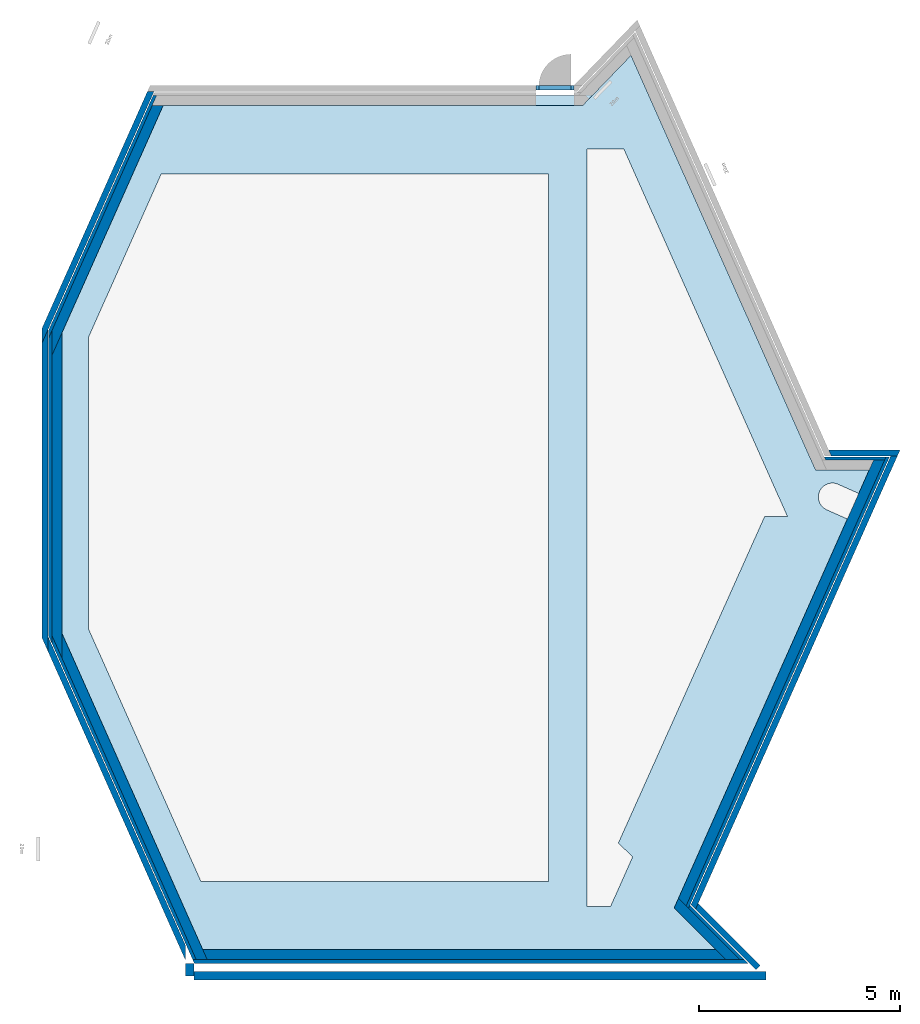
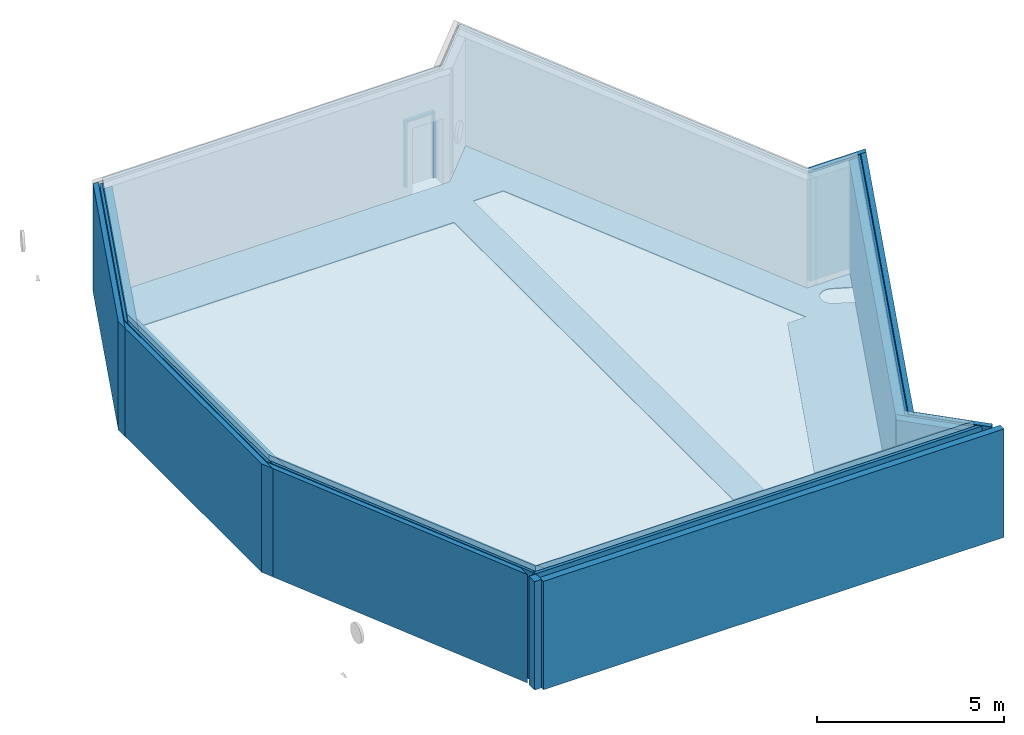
# One storey, part 1 of 4: 21 walls, 3 members, 2 slabs, 2 openings, 1 element without a shape of its own.
"""IFC2X3 building model written with IfcOpenShell, lengths in millimetres."""

from ifc_helpers import new_model, entity, si_unit, converted_unit, derived_unit, direction, frame, frame_2d, origin, origin_2d_with_axis, place, context, subcontext, project, spatial, polyline, circle_curve, parameter, trimmed, segment, composite_curve, rectangle, outline, extrude, clip, halfspace, source, transform, mapped, material, layer, layer_set, layer_usage, type_object, type_shapes, element, aggregate, save


model = new_model("IFC2X3")

# Units and contexts
model_context = context("Model", 3, precision=0.01, world=origin(), true_north=direction((6.123031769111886e-17, 1.0)))
body_context = subcontext(model_context, "Body", "Model", "MODEL_VIEW")
ifc_project = project(units=[si_unit("LENGTHUNIT", "METRE", prefix="MILLI"), si_unit("AREAUNIT", "SQUARE_METRE"), si_unit("VOLUMEUNIT", "CUBIC_METRE"), converted_unit("PLANEANGLEUNIT", "DEGREE", entity("IfcRatioMeasure", 0.017453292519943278), si_unit("PLANEANGLEUNIT", "RADIAN"), dimensions=[0, 0, 0, 0, 0, 0, 0]), si_unit("MASSUNIT", "GRAM", prefix="KILO"), derived_unit("MASSDENSITYUNIT", [(si_unit("MASSUNIT", "GRAM", prefix="KILO"), 1), (si_unit("LENGTHUNIT", "METRE"), -3)]), derived_unit("MOMENTOFINERTIAUNIT", [(si_unit("LENGTHUNIT", "METRE"), 4)]), si_unit("TIMEUNIT", "SECOND"), si_unit("FREQUENCYUNIT", "HERTZ"), si_unit("THERMODYNAMICTEMPERATUREUNIT", "DEGREE_CELSIUS"), derived_unit("THERMALTRANSMITTANCEUNIT", [(si_unit("MASSUNIT", "GRAM", prefix="KILO"), 1), (si_unit("THERMODYNAMICTEMPERATUREUNIT", "KELVIN"), -1), (si_unit("TIMEUNIT", "SECOND"), -3)]), derived_unit("VOLUMETRICFLOWRATEUNIT", [(si_unit("LENGTHUNIT", "METRE"), 3), (si_unit("TIMEUNIT", "SECOND"), -1)]), derived_unit("MASSFLOWRATEUNIT", [(si_unit("MASSUNIT", "GRAM", prefix="KILO"), 1), (si_unit("TIMEUNIT", "SECOND"), -1)]), derived_unit("ROTATIONALFREQUENCYUNIT", [(si_unit("TIMEUNIT", "SECOND"), -1)]), si_unit("ELECTRICCURRENTUNIT", "AMPERE"), si_unit("ELECTRICVOLTAGEUNIT", "VOLT"), si_unit("POWERUNIT", "WATT"), si_unit("FORCEUNIT", "NEWTON", prefix="KILO"), si_unit("ILLUMINANCEUNIT", "LUX"), si_unit("LUMINOUSFLUXUNIT", "LUMEN"), si_unit("LUMINOUSINTENSITYUNIT", "CANDELA"), derived_unit("USERDEFINED", [(si_unit("MASSUNIT", "GRAM", prefix="KILO"), -1), (si_unit("LENGTHUNIT", "METRE"), -2), (si_unit("TIMEUNIT", "SECOND"), 3), (si_unit("LUMINOUSFLUXUNIT", "LUMEN"), 1)]), derived_unit("SOUNDPOWERUNIT", [(si_unit("MASSUNIT", "GRAM", prefix="KILO"), 1), (si_unit("LENGTHUNIT", "METRE"), 2), (si_unit("TIMEUNIT", "SECOND"), -3)]), derived_unit("SOUNDPRESSUREUNIT", [(si_unit("MASSUNIT", "GRAM", prefix="KILO"), 1), (si_unit("LENGTHUNIT", "METRE"), -1), (si_unit("TIMEUNIT", "SECOND"), -2)]), derived_unit("LINEARVELOCITYUNIT", [(si_unit("LENGTHUNIT", "METRE"), 1), (si_unit("TIMEUNIT", "SECOND"), -1)]), si_unit("PRESSUREUNIT", "PASCAL"), derived_unit("USERDEFINED", [(si_unit("LENGTHUNIT", "METRE"), -2), (si_unit("MASSUNIT", "GRAM", prefix="KILO"), 1), (si_unit("TIMEUNIT", "SECOND"), -2)]), derived_unit("LINEARFORCEUNIT", [(si_unit("MASSUNIT", "GRAM", prefix="KILO"), 1), (si_unit("LENGTHUNIT", "METRE"), 1), (si_unit("TIMEUNIT", "SECOND"), -2), (si_unit("LENGTHUNIT", "METRE"), -1)]), derived_unit("PLANARFORCEUNIT", [(si_unit("MASSUNIT", "GRAM", prefix="KILO"), 1), (si_unit("LENGTHUNIT", "METRE"), 1), (si_unit("TIMEUNIT", "SECOND"), -2), (si_unit("LENGTHUNIT", "METRE"), -2)])], contexts=[model_context])

# Site, building, storey
site_placement = place(None, frame((-10000.0, -10000.0, 0.0)))
site = spatial("IfcSite", under=ifc_project, at=site_placement, Name="Default", CompositionType="ELEMENT")
building_placement = place(site_placement, origin())
building = spatial("IfcBuilding", under=site, at=building_placement, CompositionType="ELEMENT")
storey_placement = place(building_placement, frame((0.0, 0.0, 12600.0)))
storey = spatial("IfcBuildingStorey", under=building, at=storey_placement, Name="03 3e verdieping", CompositionType="ELEMENT", Elevation=12600.0)

# Curtain wall, members
curtain_wall_type = type_object("IfcCurtainWallType", Name="Curtain Wall:NLRS_32_CWA_houten binnenkozijnen ts90_ags", PredefinedType="NOTDEFINED")
curtain_wall_placement = place(storey_placement, frame((0.0, 0.0, -12600.0)))
curtain_wall = element("IfcCurtainWall", 1, at=curtain_wall_placement, inside=storey, type_object=curtain_wall_type, Name="Curtain Wall:NLRS_32_CWA_houten binnenkozijnen ts90_ags", ObjectType="Curtain Wall:NLRS_32_CWA_houten binnenkozijnen ts90_ags")
ifc_material_1 = material(Name="<Unnamed>")
member_type_1 = type_object("IfcMemberType", Name="Rectangular Mullion:NLRS_32_CWM_hout 114x67_ags", PredefinedType="MULLION", material=ifc_material_1)
shared_shape_1 = source(origin(), body_context, "Body", "SweptSolid", [
    extrude(rectangle(XDim=114.0, YDim=67.0, at=origin_2d_with_axis()), frame((-33.5, 0.0, -2170.0), z_axis=(0.0, 0.0, 1.0), x_axis=(0.0, -1.0, 0.0)), (0.0, 0.0, 1.0), 2170.0),
])
type_shapes(member_type_1, [shared_shape_1])
member_1_placement = place(curtain_wall_placement, frame((38531.263676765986, 49595.0, 12600.0), z_axis=(0.0, 0.0, -1.0), x_axis=(1.0, 0.0, 0.0)))
member_1 = element("IfcMember", 2, at=member_1_placement, type_object=member_type_1, material=ifc_material_1, Name="Rectangular Mullion:NLRS_32_CWM_hout 114x67_ags", ObjectType="Rectangular Mullion:NLRS_32_CWM_hout 114x67_ags", context=body_context, shape_type="MappedRepresentation", body=[
    mapped(shared_shape_1, transform((0.0, 0.0, 0.0), scale=1.0)),
])
member_type_2 = type_object("IfcMemberType", Name="Rectangular Mullion:NLRS_32_CWM_hout 114x67_ags", PredefinedType="MULLION", material=ifc_material_1)
shared_shape_2 = source(origin(), body_context, "Body", "SweptSolid", [
    extrude(rectangle(XDim=114.0, YDim=67.0, at=origin_2d_with_axis()), frame((-33.5, 0.0, -2170.0), z_axis=(0.0, 0.0, 1.0), x_axis=(0.0, -1.0, 0.0)), (0.0, 0.0, 1.0), 2170.0000000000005),
])
type_shapes(member_type_2, [shared_shape_2])
member_2_placement = place(curtain_wall_placement, frame((37591.26367676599, 49595.0, 14770.0), z_axis=(0.0, 0.0, 1.0), x_axis=(-1.0, 0.0, 0.0)))
member_2 = element("IfcMember", 3, at=member_2_placement, type_object=member_type_2, material=ifc_material_1, Name="Rectangular Mullion:NLRS_32_CWM_hout 114x67_ags", ObjectType="Rectangular Mullion:NLRS_32_CWM_hout 114x67_ags", context=body_context, shape_type="MappedRepresentation", body=[
    mapped(shared_shape_2, transform((0.0, 0.0, 0.0), scale=1.0)),
])
member_type_3 = type_object("IfcMemberType", Name="Rectangular Mullion:NLRS_32_CWM_hout 114x67_ags", PredefinedType="MULLION", material=ifc_material_1)
shared_shape_3 = source(origin(), body_context, "Body", "SweptSolid", [
    extrude(rectangle(XDim=114.0, YDim=67.0, at=origin_2d_with_axis()), frame((-33.5, 0.0, -806.0), z_axis=(0.0, 0.0, 1.0), x_axis=(0.0, -1.0, 0.0)), (0.0, 0.0, 1.0), 805.9999999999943),
])
type_shapes(member_type_3, [shared_shape_3])
member_3_placement = place(curtain_wall_placement, frame((38464.263676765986, 49595.0, 14770.0), z_axis=(1.0, 0.0, 0.0), x_axis=(0.0, 0.0, 1.0)))
member_3 = element("IfcMember", 4, at=member_3_placement, type_object=member_type_3, material=ifc_material_1, Name="Rectangular Mullion:NLRS_32_CWM_hout 114x67_ags", ObjectType="Rectangular Mullion:NLRS_32_CWM_hout 114x67_ags", context=body_context, shape_type="MappedRepresentation", body=[
    mapped(shared_shape_3, transform((0.0, 0.0, 0.0), scale=1.0)),
])
aggregate(curtain_wall, [member_3, member_1, member_2])

# Slab
ifc_material_2 = material(Name="NLRS_beton ihwg")
ifc_layer_1 = layer(ifc_material_2, 175.0)
ifc_layer_set_1 = layer_set([ifc_layer_1], Name="Floor:NLRS_23_FL_staalplaat - betonvloer 175mm_ags")
ifc_layer_usage_1 = layer_usage(ifc_layer_set_1, "AXIS3", "POSITIVE", 0.0)
slab_type_1 = type_object("IfcSlabType", Name="Floor:NLRS_23_FL_staalplaat - betonvloer 175mm_ags", PredefinedType="FLOOR", material=ifc_layer_set_1)
slab_1_placement = place(storey_placement, origin())
element("IfcSlab", 5, at=slab_1_placement, inside=storey, type_object=slab_type_1, material=ifc_layer_usage_1, Name="Floor:NLRS_23_FL_staalplaat - betonvloer 175mm_ags", ObjectType="Floor:NLRS_23_FL_staalplaat - betonvloer 175mm_ags", PredefinedType="FLOOR", context=body_context, shape_type="SweptSolid", body=[
    extrude(outline(polyline([(-3521.0896524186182, -10672.413085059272), (4065.2411057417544, -10672.413085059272), (9927.667995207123, -8062.292468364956), (9927.667995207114, 2442.7285701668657), (11371.295929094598, 3835.7148694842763), (843.6470231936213, 8522.926151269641), (843.6470231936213, 10076.126770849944), (-10259.41340902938, 5132.725771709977), (-11599.332005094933, 6472.644367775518), (-11599.332005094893, -7075.747862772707), (-3521.0896524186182, -10672.413085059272)])), frame((36197.413084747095, 39474.332004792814, 3725.0), z_axis=(0.0, 0.0, -1.0), x_axis=(0.0, 1.0, 0.0)), (0.0, 0.0, 1.0), 174.9999999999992),
])

# Slab, openings
ifc_material_3 = material(Name="21_APX_roostervloer")
ifc_layer_2 = layer(ifc_material_3, 30.0)
ifc_layer_set_2 = layer_set([ifc_layer_2], Name="Floor:NLRS_43_FL_roostervloer 30mm_ags")
ifc_layer_usage_2 = layer_usage(ifc_layer_set_2, "AXIS3", "POSITIVE", 0.0)
slab_type_2 = type_object("IfcSlabType", Name="Floor:NLRS_43_FL_roostervloer 30mm_ags", PredefinedType="FLOOR", material=ifc_layer_set_2)
slab_2_placement = place(storey_placement, frame((25775.0, 28125.0, 0.0)))
slab_2 = element("IfcSlab", 6, at=slab_2_placement, inside=storey, type_object=slab_type_2, material=ifc_layer_usage_2, Name="Floor:NLRS_43_FL_roostervloer 30mm_ags", ObjectType="Floor:NLRS_43_FL_roostervloer 30mm_ags", PredefinedType="FLOOR", context=body_context, shape_type="SweptSolid", body=[
    extrude(outline(composite_curve([segment(polyline([(10056.786807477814, 4221.313443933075), (7534.314292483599, 9886.879473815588)]), True, "CONTINUOUS"), segment(polyline([(7534.314292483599, 9886.879473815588), (-2914.476869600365, 9886.879473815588)]), True, "CONTINUOUS"), segment(polyline([(-2914.476869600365, 9886.879473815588), (-4123.754949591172, 11140.120526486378)]), True, "CONTINUOUS"), segment(polyline([(-4123.754949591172, 11140.120526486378), (-8726.20053055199, 802.8585018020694)]), True, "CONTINUOUS"), segment(polyline([(-8726.20053055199, 802.8585018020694), (-10056.786807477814, 802.8585018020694)]), True, "CONTINUOUS"), segment(polyline([(-10056.786807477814, 802.8585018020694), (-9798.267911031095, 222.21555363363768)]), True, "CONTINUOUS"), segment(polyline([(-9798.267911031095, 222.21555363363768), (-9282.815777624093, 451.70962932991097)]), True, "CONTINUOUS"), segment(trimmed(circle_curve(frame_2d((-9141.731546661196, 134.82925836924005), x_axis=(-1.0, 0.0)), 346.8687500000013), [parameter(114.0000000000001)], [parameter(294.0)], True, "PARAMETER"), False, "CONTINUOUS"), segment(polyline([(-9000.647315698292, -182.05111259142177), (-9516.099449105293, -411.5451882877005)]), True, "CONTINUOUS"), segment(polyline([(-9516.099449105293, -411.54518828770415), (-5200.080097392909, -10105.48336911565)]), True, "CONTINUOUS"), segment(polyline([(-5200.080097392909, -10105.48336911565), (-6234.717254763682, -11140.120526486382)]), True, "CONTINUOUS"), segment(polyline([(-6234.717254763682, -11140.120526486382), (6547.769686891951, -11140.120526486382)]), True, "CONTINUOUS"), segment(polyline([(6547.769686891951, -11140.120526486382), (10056.786807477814, -3258.7390333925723)]), True, "CONTINUOUS"), segment(polyline([(10056.786807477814, -3258.7390333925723), (10056.786807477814, 4221.313443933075)]), True, "CONTINUOUS")], self_intersect=False)), frame((10056.786807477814, 11140.120526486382, 30.0), z_axis=(0.0, 0.0, -1.0), x_axis=(-1.0, 0.0, 0.0)), (0.0, 0.0, 1.0), 29.999999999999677),
])
opening_1_placement = place(slab_2_placement, frame((5250.167479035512, 10882.802577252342, 30.0)))
element("IfcOpeningElement", 7, at=opening_1_placement, cuts=slab_2, Name="Floor:NLRS_43_FL_roostervloer 30mm_ags:2", ObjectType="Opening", context=body_context, shape_type="SweptSolid", body=[
    extrude(outline(polyline([(2113.991636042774, -5967.890150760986), (6586.248956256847, -5967.890150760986), (10509.211298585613, 2843.227532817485), (-5593.854483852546, 10012.774340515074), (-9115.552985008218, 2102.9100002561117), (-4500.044422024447, -3023.1315720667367), (2113.991636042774, -5967.890150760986)])), frame((0.0, 0.0, 0.0), z_axis=(0.0, 0.0, -1.0), x_axis=(0.4067366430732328, 0.913545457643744, 0.0)), (0.0, 0.0, 1.0), 29.999999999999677),
])
opening_2_placement = place(slab_2_placement, frame((14688.937400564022, 8571.050406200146, 30.0)))
element("IfcOpeningElement", 8, at=opening_2_placement, cuts=slab_2, Name="Floor:NLRS_43_FL_roostervloer 30mm_ags:3", ObjectType="Opening", context=body_context, shape_type="SweptSolid", body=[
    extrude(outline(polyline([(-10665.389531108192, -3999.2252037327), (-644.9997126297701, -3999.2252037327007), (-877.215399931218, -3477.6602305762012), (5071.606745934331, 3158.87902268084), (5531.877919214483, 2975.1733788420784), (6433.697339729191, 3976.7453133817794), (6192.188933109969, 4519.182075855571), (-11041.766294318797, -3153.869152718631), (-10665.389531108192, -3999.2252037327)])), frame((0.0, 0.0, 0.0), z_axis=(0.0, 0.0, -1.0), x_axis=(0.40673664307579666, -0.9135454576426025, 0.0)), (0.0, 0.0, 1.0), 29.999999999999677),
])

# Walls
ifc_layer_3 = layer(ifc_material_2, 250.00000000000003)
ifc_layer_set_3 = layer_set([ifc_layer_3], Name="Basic Wall:NLRS_21_WA_beton 250mm_ags")
ifc_layer_usage_3 = layer_usage(ifc_layer_set_3, "AXIS2", "NEGATIVE", 125.00000000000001)
wall_type_1 = type_object("IfcWallType", Name="Basic Wall:NLRS_21_WA_beton 250mm_ags", PredefinedType="STANDARD", material=ifc_layer_set_3)
wall_1_placement = place(storey_placement, frame((28183.279332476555, 49202.842080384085, 0.0), z_axis=(0.0, 0.0, 1.0), x_axis=(-0.4067366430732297, -0.9135454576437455, 0.0)))
element("IfcWallStandardCase", 9, at=wall_1_placement, inside=storey, type_object=wall_type_1, material=ifc_layer_usage_3, Name="Basic Wall:NLRS_21_WA_beton 250mm_ags", ObjectType="Basic Wall:NLRS_21_WA_beton 250mm_ags", context=body_context, shape_type="Clipping", body=[
    clip(extrude(outline(polyline([(111.30717132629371, -125.0), (6254.8732549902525, -125.0), (6816.382448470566, 125.0), (6201.734114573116, 125.0), (0.0, 125.0), (111.30717132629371, -125.0)])), origin(), (0.0, 0.0, 1.0), 3549.9999999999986), halfspace(frame((0.0, 0.0, -3600.0)), True)),
])
ifc_layer_usage_4 = layer_usage(ifc_layer_set_3, "AXIS2", "NEGATIVE", 125.00000000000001)
wall_2_placement = place(storey_placement, frame((25650.0, 43486.43397011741, 0.0), z_axis=(0.0, 0.0, 1.0), x_axis=(0.0, -1.0, 0.0)))
element("IfcWallStandardCase", 10, at=wall_2_placement, inside=storey, type_object=wall_type_1, material=ifc_layer_usage_4, Name="Basic Wall:NLRS_21_WA_beton 250mm_ags", ObjectType="Basic Wall:NLRS_21_WA_beton 250mm_ags", context=body_context, shape_type="Clipping", body=[
    clip(extrude(outline(polyline([(7533.19161774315, -125.0), (8094.700811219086, 125.0), (7480.052477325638, 125.0), (0.0, 125.0), (561.5091934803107, -125.0), (7533.19161774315, -125.0)])), origin(), (0.0, 0.0, 1.0), 3549.9999999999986), halfspace(frame((0.0, 0.0, -3600.0)), True)),
])
ifc_layer_usage_5 = layer_usage(ifc_layer_set_3, "AXIS2", "NEGATIVE", 125.00000000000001)
wall_3_placement = place(storey_placement, frame((25660.80681748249, 35955.53941240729, 0.0), z_axis=(0.0, 0.0, 1.0), x_axis=(0.40673664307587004, -0.9135454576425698, 0.0)))
element("IfcWallStandardCase", 11, at=wall_3_placement, inside=storey, type_object=wall_type_1, material=ifc_layer_usage_5, Name="Basic Wall:NLRS_21_WA_beton 250mm_ags", ObjectType="Basic Wall:NLRS_21_WA_beton 250mm_ags", context=body_context, shape_type="Clipping", body=[
    clip(extrude(outline(polyline([(561.5091934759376, -125.0), (8789.598005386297, -125.0), (8900.905176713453, 125.0), (8627.246107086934, 125.0), (0.0, 125.0), (561.5091934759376, -125.0)])), origin(), (0.0, 0.0, 1.0), 3549.9999999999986), halfspace(frame((0.0, 0.0, -3600.0)), True)),
])
ifc_layer_usage_6 = layer_usage(ifc_layer_set_3, "AXIS2", "NEGATIVE", 125.00000000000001)
wall_4_placement = place(storey_placement, frame((29284.01712027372, 28000.0, 0.0)))
element("IfcWallStandardCase", 12, at=wall_4_placement, inside=storey, type_object=wall_type_1, material=ifc_layer_usage_6, Name="Basic Wall:NLRS_21_WA_beton 250mm_ags", ObjectType="Basic Wall:NLRS_21_WA_beton 250mm_ags", context=body_context, shape_type="Clipping", body=[
    clip(extrude(outline(polyline([(13032.486941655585, -125.0), (12782.486941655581, 125.0), (0.0, 125.0), (111.30717132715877, -125.0), (13032.486941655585, -125.0)])), origin(), (0.0, 0.0, 1.0), 3549.9999999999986), halfspace(frame((0.0, 0.0, -3600.0)), True)),
])
ifc_layer_usage_7 = layer_usage(ifc_layer_set_3, "AXIS2", "NEGATIVE", 125.00000000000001)
wall_5_placement = place(storey_placement, frame((46159.346673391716, 40368.82110837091, 0.0), z_axis=(0.0, 0.0, 1.0), x_axis=(-0.40673664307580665, -0.9135454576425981, 0.0)))
element("IfcWallStandardCase", 13, at=wall_5_placement, inside=storey, type_object=wall_type_1, material=ifc_layer_usage_7, Name="Basic Wall:NLRS_21_WA_beton 250mm_ags", ObjectType="Basic Wall:NLRS_21_WA_beton 250mm_ags", context=body_context, shape_type="Clipping", body=[
    clip(extrude(outline(polyline([(12057.846742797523, -125.0), (12153.812751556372, 125.0), (0.0, 125.0), (111.30717132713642, -125.0), (12057.846742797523, -125.0)])), origin(), (0.0, 0.0, 1.0), 3549.9999999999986), halfspace(frame((0.0, 0.0, -3600.0)), True)),
])
ifc_layer_usage_8 = layer_usage(ifc_layer_set_3, "AXIS2", "NEGATIVE", 125.00000000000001)
wall_6_placement = place(storey_placement, frame((41052.39703665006, 29315.883720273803, 0.0), z_axis=(0.0, 0.0, 1.0), x_axis=(0.7071067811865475, -0.7071067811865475, 0.0)))
element("IfcWallStandardCase", 14, at=wall_6_placement, inside=storey, type_object=wall_type_1, material=ifc_layer_usage_8, Name="Basic Wall:NLRS_21_WA_beton 250mm_ags", ObjectType="Basic Wall:NLRS_21_WA_beton 250mm_ags", context=body_context, shape_type="Clipping", body=[
    clip(extrude(outline(polyline([(95.96600875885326, -125.0), (1559.1639088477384, -125.0), (1912.7172994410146, -125.0), (2162.7172994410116, 125.0), (267.78624840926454, 125.0), (0.0, 125.0), (95.96600875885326, -125.0)])), origin(), (0.0, 0.0, 1.0), 3549.9999999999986), halfspace(frame((0.0, 0.0, -3600.0)), True)),
])
ifc_material_4 = material(Name="NLRS_kalkzandsteen")
ifc_layer_4 = layer(ifc_material_4, 150.0)
ifc_layer_set_4 = layer_set([ifc_layer_4], Name="Basic Wall:NLRS_22_WA_kalkzandsteen 150mm_ags")
ifc_layer_usage_9 = layer_usage(ifc_layer_set_4, "AXIS2", "NEGATIVE", 75.0)
wall_type_2 = type_object("IfcWallType", Name="Basic Wall:NLRS_22_WA_kalkzandsteen 150mm_ags", PredefinedType="STANDARD", material=ifc_layer_set_4)
wall_7_placement = place(storey_placement, frame((28001.66394773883, 49532.50524823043, 0.0), z_axis=(0.0, 0.0, 1.0), x_axis=(-0.40673664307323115, -0.9135454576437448, 0.0)))
element("IfcWallStandardCase", 15, at=wall_7_placement, inside=storey, type_object=wall_type_2, material=ifc_layer_usage_9, Name="Basic Wall:NLRS_22_WA_kalkzandsteen 150mm_ags", ObjectType="Basic Wall:NLRS_22_WA_kalkzandsteen 150mm_ags", context=body_context, shape_type="Clipping", body=[
    clip(extrude(outline(polyline([(66.78430279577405, -75.0), (6535.3050530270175, -75.0), (6872.210569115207, 75.0), (6503.421568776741, 75.0), (0.0, 75.0), (66.78430279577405, -75.0)])), origin(), (0.0, 0.0, 1.0), 3549.9999999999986), halfspace(frame((0.0, 0.0, -3600.0)), True)),
])
ifc_layer_usage_10 = layer_usage(ifc_layer_set_4, "AXIS2", "NEGATIVE", 75.0)
wall_8_placement = place(storey_placement, frame((25350.0, 43560.82876670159, 0.0), z_axis=(0.0, 0.0, 1.0), x_axis=(0.0, -1.0, 0.0)))
element("IfcWallStandardCase", 16, at=wall_8_placement, inside=storey, type_object=wall_type_2, material=ifc_layer_usage_10, Name="Basic Wall:NLRS_22_WA_kalkzandsteen 150mm_ags", ObjectType="Basic Wall:NLRS_22_WA_kalkzandsteen 150mm_ags", context=body_context, shape_type="Clipping", body=[
    clip(extrude(outline(polyline([(7660.725554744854, -75.0), (7997.631070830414, 75.0), (7628.84207049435, 75.0), (0.0, 75.0), (336.9055160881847, -75.0), (7660.725554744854, -75.0)])), origin(), (0.0, 0.0, 1.0), 3549.9999999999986), halfspace(frame((0.0, 0.0, -3600.0)), True)),
])
ifc_layer_usage_11 = layer_usage(ifc_layer_set_4, "AXIS2", "NEGATIVE", 75.0)
wall_9_placement = place(storey_placement, frame((25356.48409036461, 35901.48144797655, 0.0), z_axis=(0.0, 0.0, 1.0), x_axis=(0.4067366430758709, -0.9135454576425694, 0.0)))
element("IfcWallStandardCase", 17, at=wall_9_placement, inside=storey, type_object=wall_type_2, material=ifc_layer_usage_11, Name="Basic Wall:NLRS_22_WA_kalkzandsteen 150mm_ags", ObjectType="Basic Wall:NLRS_22_WA_kalkzandsteen 150mm_ags", context=body_context, shape_type="Clipping", body=[
    clip(extrude(outline(polyline([(336.90551608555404, -75.0), (8777.458966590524, -75.0), (8440.55345050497, 75.0), (0.0, 75.0), (336.90551608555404, -75.0)])), origin(), (0.0, 0.0, 1.0), 3549.9999999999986), halfspace(frame((0.0, 0.0, -3600.0)), True)),
])
ifc_layer_usage_12 = layer_usage(ifc_layer_set_4, "AXIS2", "NEGATIVE", 75.0)
wall_10_placement = place(storey_placement, frame((44882.691134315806, 40492.97902798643, 0.0)))
element("IfcWallStandardCase", 18, at=wall_10_placement, inside=storey, type_object=wall_type_2, material=ifc_layer_usage_12, Name="Basic Wall:NLRS_22_WA_kalkzandsteen 150mm_ags", ObjectType="Basic Wall:NLRS_22_WA_kalkzandsteen 150mm_ags", context=body_context, shape_type="Clipping", body=[
    clip(extrude(outline(polyline([(1709.0306594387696, -75.0), (1775.8149622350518, 75.0), (0.0, 75.0), (66.78430279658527, -75.0), (1544.835217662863, -75.0), (1709.0306594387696, -75.0)])), origin(), (0.0, 0.0, 1.0), 3549.9999999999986), halfspace(frame((0.0, 0.0, -3600.0)), True)),
])
ifc_layer_usage_13 = layer_usage(ifc_layer_set_4, "AXIS2", "NEGATIVE", 75.0)
wall_11_placement = place(storey_placement, frame((46523.20588443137, 40448.48427621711, 0.0), z_axis=(0.0, 0.0, 1.0), x_axis=(-0.40673664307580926, -0.9135454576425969, 0.0)))
element("IfcWallStandardCase", 19, at=wall_11_placement, inside=storey, type_object=wall_type_2, material=ifc_layer_usage_13, Name="Basic Wall:NLRS_22_WA_kalkzandsteen 150mm_ags", ObjectType="Basic Wall:NLRS_22_WA_kalkzandsteen 150mm_ags", context=body_context, shape_type="Clipping", body=[
    clip(extrude(outline(polyline([(12305.855454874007, -75.0), (12363.435060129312, 75.0), (12202.76331108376, 75.0), (0.0, 75.0), (66.7843027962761, -75.0), (12305.855454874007, -75.0)])), origin(), (0.0, 0.0, 1.0), 3549.9999999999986), halfspace(frame((0.0, 0.0, -3600.0)), True)),
])
ifc_layer_usage_14 = layer_usage(ifc_layer_set_4, "AXIS2", "NEGATIVE", 75.0)
wall_12_placement = place(storey_placement, frame((41575.37779976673, 29217.16702586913, 0.0), z_axis=(0.0, 0.0, 1.0), x_axis=(0.7071067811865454, -0.7071067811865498, 0.0)))
element("IfcWallStandardCase", 20, at=wall_12_placement, inside=storey, type_object=wall_type_2, material=ifc_layer_usage_14, Name="Basic Wall:NLRS_22_WA_kalkzandsteen 150mm_ags", ObjectType="Basic Wall:NLRS_22_WA_kalkzandsteen 150mm_ags", context=body_context, shape_type="Clipping", body=[
    clip(extrude(outline(polyline([(2188.453928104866, -75.0), (2188.4539281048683, 75.0), (0.0, 75.0), (57.57960525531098, -75.0), (2188.453928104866, -75.0)])), origin(), (0.0, 0.0, 1.0), 3549.9999999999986), halfspace(frame((0.0, 0.0, -3600.0)), True)),
])
ifc_material_5 = material(Name="NLRS_metselwerk schoonwerk")
ifc_layer_5 = layer(ifc_material_5, 210.0)
ifc_layer_set_5 = layer_set([ifc_layer_5], Name="Basic Wall:NLRS_21_WA_metselwerk 210mm_ags")
ifc_layer_usage_15 = layer_usage(ifc_layer_set_5, "AXIS2", "NEGATIVE", 105.0)
wall_type_3 = type_object("IfcWallType", Name="Basic Wall:NLRS_21_WA_metselwerk 210mm_ags", PredefinedType="STANDARD", material=ifc_layer_set_5)
wall_13_placement = place(storey_placement, frame((29068.08237584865, 27470.0, 0.0)))
element("IfcWallStandardCase", 21, at=wall_13_placement, inside=storey, type_object=wall_type_3, material=ifc_layer_usage_15, Name="Basic Wall:NLRS_21_WA_metselwerk 210mm_ags", ObjectType="Basic Wall:NLRS_21_WA_metselwerk 210mm_ags", context=body_context, shape_type="Clipping", body=[
    clip(extrude(rectangle(XDim=14254.46245008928, YDim=209.99999999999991, at=frame_2d((7127.23122504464, 2.2311041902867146e-12), x_axis=(-1.0, 0.0))), origin(), (0.0, 0.0, 1.0), 3549.9999999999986), halfspace(frame((0.0, 0.0, -3600.0)), True)),
])
ifc_layer_usage_16 = layer_usage(ifc_layer_set_5, "AXIS2", "NEGATIVE", 105.0)
wall_14_placement = place(storey_placement, frame((28963.08237584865, 27770.014353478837, 0.0), z_axis=(0.0, 0.0, 1.0), x_axis=(0.0, -1.0, 0.0)))
element("IfcWallStandardCase", 22, at=wall_14_placement, inside=storey, type_object=wall_type_3, material=ifc_layer_usage_16, Name="Basic Wall:NLRS_21_WA_metselwerk 210mm_ags", ObjectType="Basic Wall:NLRS_21_WA_metselwerk 210mm_ags", context=body_context, shape_type="Clipping", body=[
    clip(extrude(rectangle(XDim=300.0143537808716, YDim=209.9999999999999, at=frame_2d((150.0071768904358, 2.1671553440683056e-12), x_axis=(-1.0, 0.0))), origin(), (0.0, 0.0, 1.0), 3549.9999999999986), halfspace(frame((0.0, 0.0, -3600.0)), True)),
])
ifc_material_6 = material(Name="NLRS_isolatie")
ifc_layer_6 = layer(ifc_material_6, 100.0)
ifc_layer_set_6 = layer_set([ifc_layer_6], Name="Basic Wall:NLRS_21_WA_isolatie 100mm_ags")
ifc_layer_usage_17 = layer_usage(ifc_layer_set_6, "AXIS2", "NEGATIVE", 50.0)
wall_type_4 = type_object("IfcWallType", Name="Basic Wall:NLRS_21_WA_isolatie 100mm_ags", PredefinedType="STANDARD", material=ifc_layer_set_6)
wall_15_placement = place(storey_placement, frame((29034.094319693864, 27825.0, 0.0)))
element("IfcWallStandardCase", 23, at=wall_15_placement, inside=storey, type_object=wall_type_4, material=ifc_layer_usage_17, Name="Basic Wall:NLRS_21_WA_isolatie 100mm_ags", ObjectType="Basic Wall:NLRS_21_WA_isolatie 100mm_ags", context=body_context, shape_type="Clipping", body=[
    clip(extrude(outline(polyline([(13849.100217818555, -50.0), (13749.10021781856, 50.0), (13635.963132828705, 50.0), (87.5709022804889, 50.0), (0.0, 50.0), (44.52286853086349, -50.0), (13849.100217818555, -50.0)])), origin(), (0.0, 0.0, 1.0), 3549.9999999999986), halfspace(frame((0.0, 0.0, -8400.0)), True)),
])
ifc_layer_7 = layer(ifc_material_6, 80.0)
ifc_layer_set_7 = layer_set([ifc_layer_7], Name="Basic Wall:NLRS_21_WA_isolatie 80mm_ags")
ifc_layer_usage_18 = layer_usage(ifc_layer_set_7, "AXIS2", "NEGATIVE", 40.0)
wall_type_5 = type_object("IfcWallType", Name="Basic Wall:NLRS_21_WA_isolatie 80mm_ags", PredefinedType="STANDARD", material=ifc_layer_set_7)
wall_16_placement = place(storey_placement, frame((25408.45818138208, 43376.159634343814, 0.0), z_axis=(0.0, 0.0, 1.0), x_axis=(0.4067366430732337, 0.9135454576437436, 0.0)))
element("IfcWallStandardCase", 24, at=wall_16_placement, inside=storey, type_object=wall_type_5, material=ifc_layer_usage_18, Name="Basic Wall:NLRS_21_WA_isolatie 80mm_ags", ObjectType="Basic Wall:NLRS_21_WA_isolatie 80mm_ags", context=body_context, shape_type="Clipping", body=[
    clip(extrude(outline(polyline([(0.0, -40.0), (196.68746684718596, -40.0), (6613.912620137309, -40.0), (6578.294325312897, 40.0), (179.68294191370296, 40.0), (0.0, -40.0)])), origin(), (0.0, 0.0, 1.0), 3549.9999999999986), halfspace(frame((0.0, 0.0, -8400.0)), True)),
])
ifc_layer_usage_19 = layer_usage(ifc_layer_set_7, "AXIS2", "NEGATIVE", 40.0)
wall_17_placement = place(storey_placement, frame((25485.0, 35756.55488552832, 0.0), z_axis=(0.0, 0.0, 1.0), x_axis=(0.0, 1.0, 0.0)))
element("IfcWallStandardCase", 25, at=wall_17_placement, inside=storey, type_object=wall_type_5, material=ifc_layer_usage_19, Name="Basic Wall:NLRS_21_WA_isolatie 80mm_ags", ObjectType="Basic Wall:NLRS_21_WA_isolatie 80mm_ags", context=body_context, shape_type="Clipping", body=[
    clip(extrude(outline(polyline([(0.0, -40.0), (196.687466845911, -40.0), (7783.018225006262, -40.0), (7603.335283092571, 40.0), (179.68294191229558, 40.0), (0.0, -40.0)])), origin(), (0.0, 0.0, 1.0), 3549.9999999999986), halfspace(frame((0.0, 0.0, -8400.0)), True)),
])
ifc_layer_usage_20 = layer_usage(ifc_layer_set_7, "AXIS2", "NEGATIVE", 40.0)
wall_18_placement = place(storey_placement, frame((29085.12340366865, 27858.73053397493, 0.0), z_axis=(0.0, 0.0, 1.0), x_axis=(-0.4067366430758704, 0.9135454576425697, 0.0)))
element("IfcWallStandardCase", 26, at=wall_18_placement, inside=storey, type_object=wall_type_5, material=ifc_layer_usage_20, Name="Basic Wall:NLRS_21_WA_isolatie 80mm_ags", ObjectType="Basic Wall:NLRS_21_WA_isolatie 80mm_ags", context=body_context, shape_type="Clipping", body=[
    clip(extrude(outline(polyline([(0.0, -40.0), (8842.737145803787, -40.0), (8663.054203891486, 40.0), (35.6182948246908, 40.0), (0.0, -40.0)])), origin(), (0.0, 0.0, 1.0), 3549.9999999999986), halfspace(frame((0.0, 0.0, -8400.0)), True)),
])
ifc_layer_usage_21 = layer_usage(ifc_layer_set_7, "AXIS2", "NEGATIVE", 40.0)
wall_19_placement = place(storey_placement, frame((41354.19014924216, 29170.59495039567, 0.0), z_axis=(0.0, 0.0, 1.0), x_axis=(0.4067366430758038, 0.9135454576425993, 0.0)))
element("IfcWallStandardCase", 27, at=wall_19_placement, inside=storey, type_object=wall_type_5, material=ifc_layer_usage_21, Name="Basic Wall:NLRS_21_WA_isolatie 80mm_ags", ObjectType="Basic Wall:NLRS_21_WA_isolatie 80mm_ags", context=body_context, shape_type="Clipping", body=[
    clip(extrude(outline(polyline([(12307.711071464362, -40.0), (12272.092776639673, 40.0), (12184.521874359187, 40.0), (30.709122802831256, 40.0), (0.0, -40.0), (85.69159949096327, -40.0), (12307.711071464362, -40.0)])), origin(), (0.0, 0.0, 1.0), 3549.9999999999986), halfspace(frame((0.0, 0.0, -8400.0)), True)),
])
ifc_layer_usage_22 = layer_usage(ifc_layer_set_7, "AXIS2", "NEGATIVE", 40.0)
wall_20_placement = place(storey_placement, frame((44772.29184347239, 40357.97902798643, 0.0)))
element("IfcWallStandardCase", 28, at=wall_20_placement, inside=storey, type_object=wall_type_5, material=ifc_layer_usage_22, Name="Basic Wall:NLRS_21_WA_isolatie 80mm_ags", ObjectType="Basic Wall:NLRS_21_WA_isolatie 80mm_ags", context=body_context, shape_type="Clipping", body=[
    clip(extrude(outline(polyline([(35.61829482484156, -40.0), (1501.2480121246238, -40.0), (1536.8663069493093, 40.0), (0.0, 40.0), (35.61829482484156, -40.0)])), origin(), (0.0, 0.0, 1.0), 3549.9999999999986), halfspace(frame((0.0, 0.0, -8400.0)), True)),
])
ifc_layer_usage_23 = layer_usage(ifc_layer_set_7, "AXIS2", "NEGATIVE", 40.0)
wall_21_placement = place(storey_placement, frame((41397.30160981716, 29204.324384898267, 0.0), z_axis=(0.0, 0.0, 1.0), x_axis=(0.7071067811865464, -0.7071067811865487, 0.0)))
element("IfcWallStandardCase", 29, at=wall_21_placement, inside=storey, type_object=wall_type_5, material=ifc_layer_usage_23, Name="Basic Wall:NLRS_21_WA_isolatie 80mm_ags", ObjectType="Basic Wall:NLRS_21_WA_isolatie 80mm_ags", context=body_context, shape_type="Clipping", body=[
    clip(extrude(outline(polyline([(30.709122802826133, -40.0), (1839.9485743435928, -40.0), (1919.9485743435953, 40.0), (0.0, 40.0), (30.709122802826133, -40.0)])), origin(), (0.0, 0.0, 1.0), 3549.9999999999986), halfspace(frame((0.0, 0.0, -8400.0)), True)),
])

save(model, "model.ifc")
